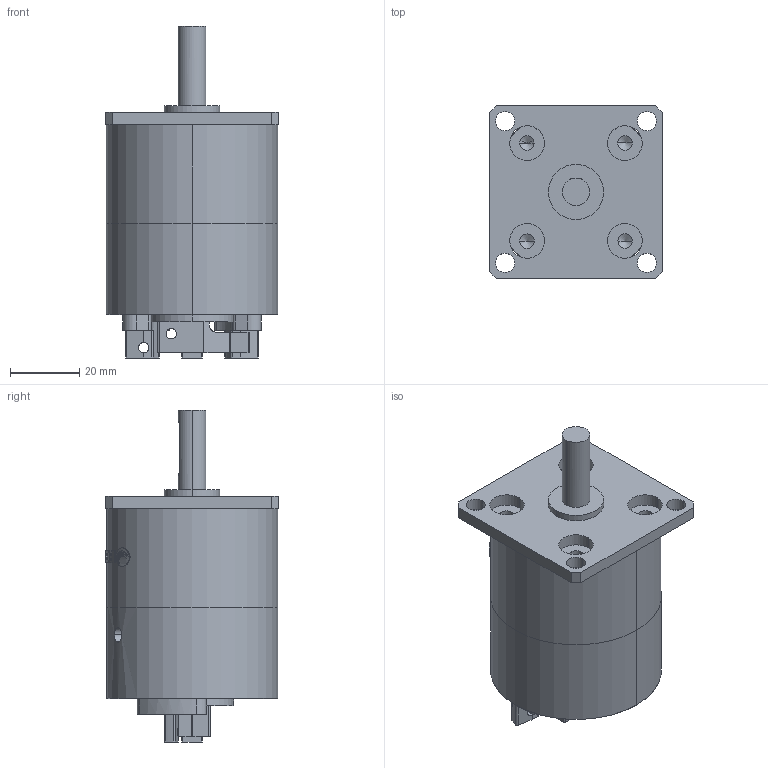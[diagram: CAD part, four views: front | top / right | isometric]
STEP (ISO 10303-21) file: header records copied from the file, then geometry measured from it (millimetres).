
FILE_DESCRIPTION (( 'STEP AP203' ), '1' );
FILE_NAME ('PROA20S-#-#-P.STEP', '2016-02-04T07:04:37', ( 'Sam Lin' ), ( '' ), 'SwSTEP 2.0', 'SolidWorks 2013', '' );
FILE_SCHEMA (( 'CONFIG_CONTROL_DESIGN' ));
Length unit declared in the file: metre
Products named in the file (9): 鏡射PROA20S-#-# (4); PROA20S-#-#-P; PROA20S-#-# (2); PROA20S-#-# (3); PROA20S-#-# (1); PROA20S-#-# (4); PROA20S-#-# (6); mark-PROA20S; PROA20S-#-#-P (4)
Assembly tree (8 placements, depth 2):
  PROA20S-#-#-P
    PROA20S-#-# (2)
    PROA20S-#-# (3)
    PROA20S-#-# (1)
    PROA20S-#-# (4)
    PROA20S-#-# (6)
    mark-PROA20S
    PROA20S-#-#-P (4)
    鏡射PROA20S-#-# (4)
Bounding box: 50 x 50.03 x 96 mm (x, y, z)
Volume: 116206.1 mm3; surface area: 32268 mm2
Topology: 14 solids, 14 shells, 389 faces, 981 edges, 639 vertices
Faces by surface type: cylinder 184, plane 146, bspline 35, cone 24
Entity records: 17000 total; most frequent: CARTESIAN_POINT 6786, ORIENTED_EDGE 1922, DIRECTION 1884, EDGE_CURVE 961, AXIS2_PLACEMENT_3D 713, VERTEX_POINT 639, EDGE_LOOP 476, VECTOR 458
